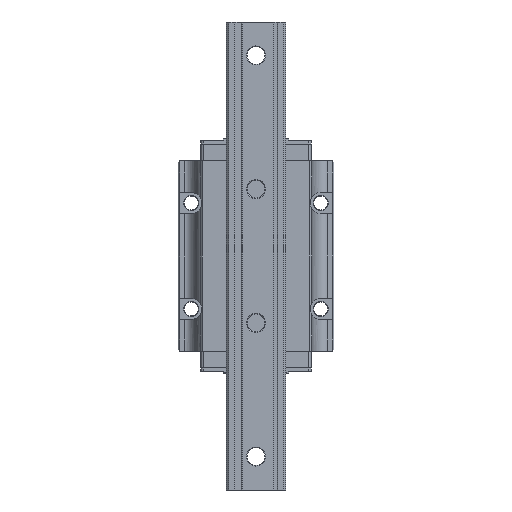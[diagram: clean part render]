
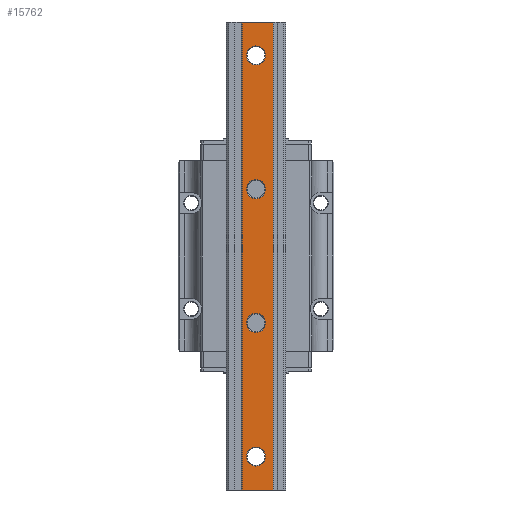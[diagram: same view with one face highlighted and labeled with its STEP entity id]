
A CAD part, front view. The second image highlights one B-rep face of the part: STEP entity #15762.
In plain terms, the highlighted planar face has unit normal (0, -1, 0).
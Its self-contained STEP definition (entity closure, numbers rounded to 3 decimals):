
#314 = DIRECTION ( 'NONE',  ( 0., 0., -1. ) ) ;
#316 = CIRCLE ( 'NONE', #11752, 8.5 ) ;
#411 = CARTESIAN_POINT ( 'NONE',  ( 0., -38., -180. ) ) ;
#710 = ORIENTED_EDGE ( 'NONE', *, *, #9345, .T. ) ;
#804 = AXIS2_PLACEMENT_3D ( 'NONE', #11827, #20166, #6119 ) ;
#1068 = CIRCLE ( 'NONE', #9477, 8.5 ) ;
#1232 = LINE ( 'NONE', #7762, #19673 ) ;
#1752 = EDGE_CURVE ( 'NONE', #13826, #19242, #6694, .T. ) ;
#1805 = LINE ( 'NONE', #11801, #11844 ) ;
#2131 = PLANE ( 'NONE',  #804 ) ;
#2187 = CARTESIAN_POINT ( 'NONE',  ( 0., -38., -171.5 ) ) ;
#2354 = VECTOR ( 'NONE', #6603, 1000. ) ;
#2425 = CIRCLE ( 'NONE', #16891, 8.5 ) ;
#2839 = AXIS2_PLACEMENT_3D ( 'NONE', #13647, #17973, #16679 ) ;
#3276 = ORIENTED_EDGE ( 'NONE', *, *, #11494, .T. ) ;
#3711 = FACE_OUTER_BOUND ( 'NONE', #14367, .T. ) ;
#3843 = EDGE_CURVE ( 'NONE', #18822, #14542, #316, .T. ) ;
#4146 = FACE_BOUND ( 'NONE', #8383, .T. ) ;
#4158 = DIRECTION ( 'NONE',  ( 1., 0., 0. ) ) ;
#4262 = CARTESIAN_POINT ( 'NONE',  ( 0., -38., -51.5 ) ) ;
#4821 = VERTEX_POINT ( 'NONE', #5417 ) ;
#4971 = CARTESIAN_POINT ( 'NONE',  ( 0., -38., 180. ) ) ;
#5121 = EDGE_CURVE ( 'NONE', #8790, #20385, #8458, .T. ) ;
#5417 = CARTESIAN_POINT ( 'NONE',  ( 15.5, -38., -210. ) ) ;
#5518 = FACE_BOUND ( 'NONE', #6567, .T. ) ;
#5533 = LINE ( 'NONE', #17004, #18916 ) ;
#5645 = VERTEX_POINT ( 'NONE', #2187 ) ;
#5821 = CARTESIAN_POINT ( 'NONE',  ( -12.5, -38., -210. ) ) ;
#5845 = EDGE_CURVE ( 'NONE', #20385, #8790, #2425, .T. ) ;
#6119 = DIRECTION ( 'NONE',  ( 0., 0., 1. ) ) ;
#6149 = CARTESIAN_POINT ( 'NONE',  ( 0., -38., 51.5 ) ) ;
#6311 = CARTESIAN_POINT ( 'NONE',  ( 0., -38., 188.5 ) ) ;
#6361 = DIRECTION ( 'NONE',  ( 0., 0., 1. ) ) ;
#6442 = CIRCLE ( 'NONE', #18207, 8.5 ) ;
#6519 = CIRCLE ( 'NONE', #16613, 8.5 ) ;
#6567 = EDGE_LOOP ( 'NONE', ( #3276, #11711 ) ) ;
#6603 = DIRECTION ( 'NONE',  ( 0., 0., -1. ) ) ;
#6694 = LINE ( 'NONE', #19553, #2354 ) ;
#6849 = CARTESIAN_POINT ( 'NONE',  ( 0., -38., -60. ) ) ;
#7081 = FACE_BOUND ( 'NONE', #9023, .T. ) ;
#7209 = CARTESIAN_POINT ( 'NONE',  ( 0., -38., -68.5 ) ) ;
#7243 = ORIENTED_EDGE ( 'NONE', *, *, #5121, .T. ) ;
#7574 = ORIENTED_EDGE ( 'NONE', *, *, #7680, .T. ) ;
#7680 = EDGE_CURVE ( 'NONE', #19587, #5645, #6442, .T. ) ;
#7725 = DIRECTION ( 'NONE',  ( 0., 1., 0. ) ) ;
#7762 = CARTESIAN_POINT ( 'NONE',  ( -12.5, -38., -210. ) ) ;
#7803 = CARTESIAN_POINT ( 'NONE',  ( 0., -38., 171.5 ) ) ;
#7977 = DIRECTION ( 'NONE',  ( 0., 0., 1. ) ) ;
#8289 = DIRECTION ( 'NONE',  ( 0., 1., 0. ) ) ;
#8383 = EDGE_LOOP ( 'NONE', ( #7243, #18506 ) ) ;
#8432 = EDGE_LOOP ( 'NONE', ( #7574, #15219 ) ) ;
#8458 = CIRCLE ( 'NONE', #11836, 8.5 ) ;
#8472 = CIRCLE ( 'NONE', #20261, 8.5 ) ;
#8520 = EDGE_CURVE ( 'NONE', #17125, #4821, #1805, .T. ) ;
#8672 = FACE_BOUND ( 'NONE', #8432, .T. ) ;
#8790 = VERTEX_POINT ( 'NONE', #7803 ) ;
#9023 = EDGE_LOOP ( 'NONE', ( #15483, #710 ) ) ;
#9345 = EDGE_CURVE ( 'NONE', #16003, #16164, #13269, .T. ) ;
#9402 = DIRECTION ( 'NONE',  ( 0., 0., 1. ) ) ;
#9477 = AXIS2_PLACEMENT_3D ( 'NONE', #20674, #12429, #15725 ) ;
#10069 = CARTESIAN_POINT ( 'NONE',  ( 15.5, -38., 210. ) ) ;
#11304 = DIRECTION ( 'NONE',  ( 0., 1., 0. ) ) ;
#11494 = EDGE_CURVE ( 'NONE', #14542, #18822, #6519, .T. ) ;
#11711 = ORIENTED_EDGE ( 'NONE', *, *, #3843, .T. ) ;
#11752 = AXIS2_PLACEMENT_3D ( 'NONE', #13177, #16742, #19615 ) ;
#11801 = CARTESIAN_POINT ( 'NONE',  ( 15.5, -38., 210. ) ) ;
#11827 = CARTESIAN_POINT ( 'NONE',  ( -12.5, -38., 210. ) ) ;
#11836 = AXIS2_PLACEMENT_3D ( 'NONE', #4971, #11304, #6361 ) ;
#11844 = VECTOR ( 'NONE', #314, 1000. ) ;
#12087 = EDGE_CURVE ( 'NONE', #19242, #4821, #1232, .T. ) ;
#12324 = DIRECTION ( 'NONE',  ( 0., 0., 1. ) ) ;
#12359 = CARTESIAN_POINT ( 'NONE',  ( 0., -38., -180. ) ) ;
#12429 = DIRECTION ( 'NONE',  ( 0., 1., 0. ) ) ;
#12765 = ORIENTED_EDGE ( 'NONE', *, *, #8520, .F. ) ;
#13177 = CARTESIAN_POINT ( 'NONE',  ( 0., -38., -60. ) ) ;
#13269 = CIRCLE ( 'NONE', #2839, 8.5 ) ;
#13322 = ORIENTED_EDGE ( 'NONE', *, *, #12087, .T. ) ;
#13647 = CARTESIAN_POINT ( 'NONE',  ( 0., -38., 60. ) ) ;
#13826 = VERTEX_POINT ( 'NONE', #14127 ) ;
#13908 = DIRECTION ( 'NONE',  ( 0., 1., 0. ) ) ;
#13995 = CARTESIAN_POINT ( 'NONE',  ( 0., -38., -188.5 ) ) ;
#14095 = DIRECTION ( 'NONE',  ( 1., 0., 0. ) ) ;
#14127 = CARTESIAN_POINT ( 'NONE',  ( -12.5, -38., 210. ) ) ;
#14367 = EDGE_LOOP ( 'NONE', ( #13322, #12765, #16531, #17197 ) ) ;
#14542 = VERTEX_POINT ( 'NONE', #7209 ) ;
#14895 = CARTESIAN_POINT ( 'NONE',  ( 0., -38., 68.5 ) ) ;
#15219 = ORIENTED_EDGE ( 'NONE', *, *, #20014, .T. ) ;
#15483 = ORIENTED_EDGE ( 'NONE', *, *, #19912, .T. ) ;
#15725 = DIRECTION ( 'NONE',  ( 0., 0., 1. ) ) ;
#15762 = ADVANCED_FACE ( 'NONE', ( #5518, #8672, #7081, #4146, #3711 ), #2131, .F. ) ;
#16003 = VERTEX_POINT ( 'NONE', #14895 ) ;
#16108 = DIRECTION ( 'NONE',  ( 0., 0., 1. ) ) ;
#16164 = VERTEX_POINT ( 'NONE', #6149 ) ;
#16531 = ORIENTED_EDGE ( 'NONE', *, *, #18777, .F. ) ;
#16613 = AXIS2_PLACEMENT_3D ( 'NONE', #6849, #13908, #12324 ) ;
#16679 = DIRECTION ( 'NONE',  ( 0., 0., 1. ) ) ;
#16742 = DIRECTION ( 'NONE',  ( 0., 1., 0. ) ) ;
#16891 = AXIS2_PLACEMENT_3D ( 'NONE', #20434, #8289, #7977 ) ;
#17004 = CARTESIAN_POINT ( 'NONE',  ( -12.5, -38., 210. ) ) ;
#17125 = VERTEX_POINT ( 'NONE', #10069 ) ;
#17197 = ORIENTED_EDGE ( 'NONE', *, *, #1752, .T. ) ;
#17778 = DIRECTION ( 'NONE',  ( 0., 1., 0. ) ) ;
#17973 = DIRECTION ( 'NONE',  ( 0., 1., 0. ) ) ;
#18207 = AXIS2_PLACEMENT_3D ( 'NONE', #12359, #7725, #9402 ) ;
#18506 = ORIENTED_EDGE ( 'NONE', *, *, #5845, .T. ) ;
#18777 = EDGE_CURVE ( 'NONE', #13826, #17125, #5533, .T. ) ;
#18822 = VERTEX_POINT ( 'NONE', #4262 ) ;
#18916 = VECTOR ( 'NONE', #4158, 1000. ) ;
#19242 = VERTEX_POINT ( 'NONE', #5821 ) ;
#19553 = CARTESIAN_POINT ( 'NONE',  ( -12.5, -38., 210. ) ) ;
#19587 = VERTEX_POINT ( 'NONE', #13995 ) ;
#19615 = DIRECTION ( 'NONE',  ( 0., 0., 1. ) ) ;
#19673 = VECTOR ( 'NONE', #14095, 1000. ) ;
#19912 = EDGE_CURVE ( 'NONE', #16164, #16003, #1068, .T. ) ;
#20014 = EDGE_CURVE ( 'NONE', #5645, #19587, #8472, .T. ) ;
#20166 = DIRECTION ( 'NONE',  ( 0., 1., 0. ) ) ;
#20261 = AXIS2_PLACEMENT_3D ( 'NONE', #411, #17778, #16108 ) ;
#20385 = VERTEX_POINT ( 'NONE', #6311 ) ;
#20434 = CARTESIAN_POINT ( 'NONE',  ( 0., -38., 180. ) ) ;
#20674 = CARTESIAN_POINT ( 'NONE',  ( 0., -38., 60. ) ) ;
